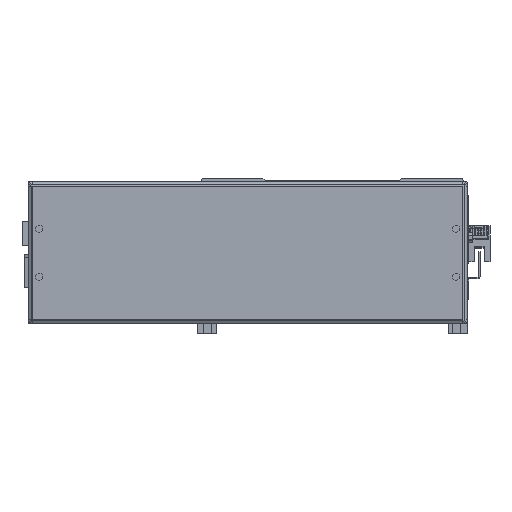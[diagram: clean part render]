
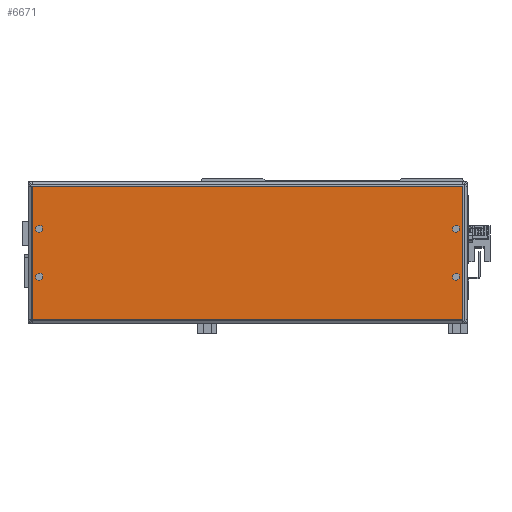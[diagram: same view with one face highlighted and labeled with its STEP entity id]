
A CAD part, front view. The second image highlights one B-rep face of the part: STEP entity #6671.
In plain terms, the highlighted planar face has unit normal (0, -1, 0) as drawn and (0, 0, 1) by its records, which use the part's own axes.
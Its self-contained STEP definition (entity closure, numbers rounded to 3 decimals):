
#147 = EDGE_CURVE ( 'NONE', #2538, #2538, #24065, .T. ) ;
#209 = ORIENTED_EDGE ( 'NONE', *, *, #21300, .F. ) ;
#388 = CARTESIAN_POINT ( 'NONE',  ( -97.016, 54.524, 63. ) ) ;
#464 = VERTEX_POINT ( 'NONE', #8043 ) ;
#507 = CARTESIAN_POINT ( 'NONE',  ( 170.497, 27.731, 63. ) ) ;
#862 = EDGE_CURVE ( 'NONE', #1593, #1593, #15157, .T. ) ;
#942 = CARTESIAN_POINT ( 'NONE',  ( -97.016, 54.494, 63. ) ) ;
#1332 = DIRECTION ( 'NONE',  ( 1., 0., 0. ) ) ;
#1593 = VERTEX_POINT ( 'NONE', #9177 ) ;
#1843 = AXIS2_PLACEMENT_3D ( 'NONE', #10668, #4039, #9234 ) ;
#2455 = CARTESIAN_POINT ( 'NONE',  ( 172.51, -29.032, 63. ) ) ;
#2538 = VERTEX_POINT ( 'NONE', #26649 ) ;
#2619 = VERTEX_POINT ( 'NONE', #942 ) ;
#2736 = DIRECTION ( 'NONE',  ( 0., 0., 1. ) ) ;
#3119 = VERTEX_POINT ( 'NONE', #11665 ) ;
#3229 = DIRECTION ( 'NONE',  ( 1., 0., 0. ) ) ;
#3395 = AXIS2_PLACEMENT_3D ( 'NONE', #28721, #2736, #1332 ) ;
#3672 = VECTOR ( 'NONE', #19186, 1000. ) ;
#4039 = DIRECTION ( 'NONE',  ( 0., 0., 1. ) ) ;
#4349 = EDGE_LOOP ( 'NONE', ( #16723 ) ) ;
#4384 = EDGE_CURVE ( 'NONE', #3119, #17079, #28614, .T. ) ;
#5085 = LINE ( 'NONE', #388, #11309 ) ;
#5600 = FACE_BOUND ( 'NONE', #13080, .T. ) ;
#6029 = CARTESIAN_POINT ( 'NONE',  ( -92.753, -2.269, 63. ) ) ;
#6281 = DIRECTION ( 'NONE',  ( -1., 0., 0. ) ) ;
#6657 = AXIS2_PLACEMENT_3D ( 'NONE', #22160, #11247, #3229 ) ;
#6671 = ADVANCED_FACE ( 'NONE', ( #5600, #29233, #17894, #25028, #15528 ), #13163, .T. ) ;
#7475 = DIRECTION ( 'NONE',  ( 0., 0., 1. ) ) ;
#7530 = DIRECTION ( 'NONE',  ( 0., 0., 1. ) ) ;
#8043 = CARTESIAN_POINT ( 'NONE',  ( 170.497, -2.269, 63. ) ) ;
#8284 = ORIENTED_EDGE ( 'NONE', *, *, #4384, .T. ) ;
#8313 = ORIENTED_EDGE ( 'NONE', *, *, #11124, .T. ) ;
#9054 = CARTESIAN_POINT ( 'NONE',  ( 172.51, -29.062, 63. ) ) ;
#9128 = VECTOR ( 'NONE', #15194, 1000. ) ;
#9177 = CARTESIAN_POINT ( 'NONE',  ( -90.503, -2.269, 63. ) ) ;
#9234 = DIRECTION ( 'NONE',  ( 1., 0., 0. ) ) ;
#9495 = CARTESIAN_POINT ( 'NONE',  ( 172.51, 54.494, 63. ) ) ;
#10668 = CARTESIAN_POINT ( 'NONE',  ( 168.247, -2.269, 63. ) ) ;
#10753 = DIRECTION ( 'NONE',  ( 0., -1., 0. ) ) ;
#10922 = EDGE_CURVE ( 'NONE', #2619, #3119, #5085, .T. ) ;
#11124 = EDGE_CURVE ( 'NONE', #17079, #26400, #15660, .T. ) ;
#11247 = DIRECTION ( 'NONE',  ( 0., 0., 1. ) ) ;
#11269 = CARTESIAN_POINT ( 'NONE',  ( -71.103, 2.271, 63. ) ) ;
#11309 = VECTOR ( 'NONE', #10753, 1000. ) ;
#11665 = CARTESIAN_POINT ( 'NONE',  ( -97.016, -29.032, 63. ) ) ;
#11900 = CIRCLE ( 'NONE', #6657, 2.25 ) ;
#13080 = EDGE_LOOP ( 'NONE', ( #13504 ) ) ;
#13163 = PLANE ( 'NONE',  #21716 ) ;
#13504 = ORIENTED_EDGE ( 'NONE', *, *, #18131, .F. ) ;
#13921 = EDGE_CURVE ( 'NONE', #26400, #2619, #19080, .T. ) ;
#14833 = ORIENTED_EDGE ( 'NONE', *, *, #10922, .T. ) ;
#15157 = CIRCLE ( 'NONE', #16987, 2.25 ) ;
#15194 = DIRECTION ( 'NONE',  ( 0., 1., 0. ) ) ;
#15528 = FACE_OUTER_BOUND ( 'NONE', #20737, .T. ) ;
#15660 = LINE ( 'NONE', #9054, #9128 ) ;
#15863 = CARTESIAN_POINT ( 'NONE',  ( -97.046, -29.032, 63. ) ) ;
#16723 = ORIENTED_EDGE ( 'NONE', *, *, #862, .F. ) ;
#16987 = AXIS2_PLACEMENT_3D ( 'NONE', #6029, #7475, #25440 ) ;
#17079 = VERTEX_POINT ( 'NONE', #2455 ) ;
#17225 = EDGE_LOOP ( 'NONE', ( #25766 ) ) ;
#17894 = FACE_BOUND ( 'NONE', #17225, .T. ) ;
#18131 = EDGE_CURVE ( 'NONE', #464, #464, #25553, .T. ) ;
#19080 = LINE ( 'NONE', #22895, #26183 ) ;
#19186 = DIRECTION ( 'NONE',  ( 1., 0., 0. ) ) ;
#19821 = DIRECTION ( 'NONE',  ( 1., 0., 0. ) ) ;
#20737 = EDGE_LOOP ( 'NONE', ( #8284, #8313, #25473, #14833 ) ) ;
#21300 = EDGE_CURVE ( 'NONE', #24181, #24181, #11900, .T. ) ;
#21716 = AXIS2_PLACEMENT_3D ( 'NONE', #11269, #7530, #19821 ) ;
#22160 = CARTESIAN_POINT ( 'NONE',  ( 168.247, 27.731, 63. ) ) ;
#22895 = CARTESIAN_POINT ( 'NONE',  ( 172.54, 54.494, 63. ) ) ;
#24065 = CIRCLE ( 'NONE', #3395, 2.25 ) ;
#24181 = VERTEX_POINT ( 'NONE', #507 ) ;
#25028 = FACE_BOUND ( 'NONE', #4349, .T. ) ;
#25440 = DIRECTION ( 'NONE',  ( 1., 0., 0. ) ) ;
#25473 = ORIENTED_EDGE ( 'NONE', *, *, #13921, .T. ) ;
#25553 = CIRCLE ( 'NONE', #1843, 2.25 ) ;
#25766 = ORIENTED_EDGE ( 'NONE', *, *, #147, .F. ) ;
#26005 = EDGE_LOOP ( 'NONE', ( #209 ) ) ;
#26183 = VECTOR ( 'NONE', #6281, 1000. ) ;
#26400 = VERTEX_POINT ( 'NONE', #9495 ) ;
#26649 = CARTESIAN_POINT ( 'NONE',  ( -90.503, 27.731, 63. ) ) ;
#28614 = LINE ( 'NONE', #15863, #3672 ) ;
#28721 = CARTESIAN_POINT ( 'NONE',  ( -92.753, 27.731, 63. ) ) ;
#29233 = FACE_BOUND ( 'NONE', #26005, .T. ) ;
